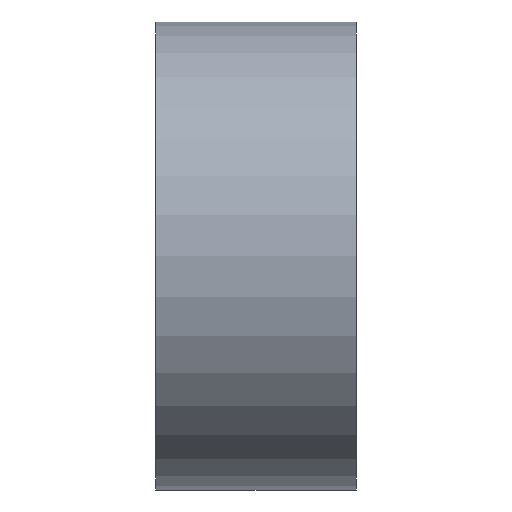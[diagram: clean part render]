
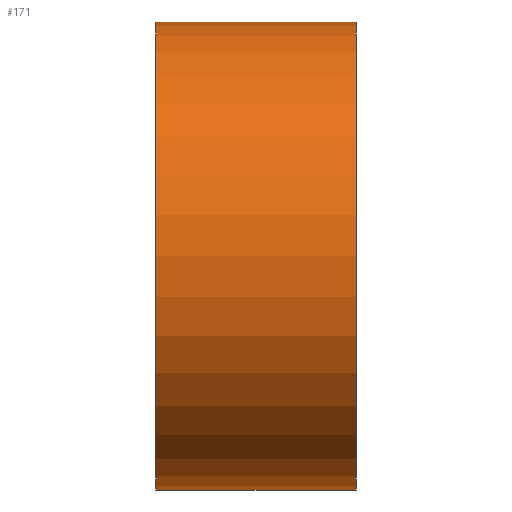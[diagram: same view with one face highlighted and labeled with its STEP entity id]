
A CAD part, left-side view. The second image highlights one B-rep face of the part: STEP entity #171.
In plain terms, the highlighted cylindrical face has radius 17.5 mm (diameter 35 mm), a partial arc.
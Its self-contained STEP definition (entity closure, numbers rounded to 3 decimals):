
#37 = CARTESIAN_POINT ( 'NONE',  ( 0., 0., 0. ) ) ;
#107 = DIRECTION ( 'NONE',  ( 0., 1., 0. ) ) ;
#112 = ORIENTED_EDGE ( 'NONE', *, *, #526, .F. ) ;
#118 = CARTESIAN_POINT ( 'NONE',  ( 0., 0., -17.5 ) ) ;
#153 = VECTOR ( 'NONE', #824, 1000. ) ;
#154 = CIRCLE ( 'NONE', #860, 17.5 ) ;
#171 = ADVANCED_FACE ( 'NONE', ( #703 ), #245, .T. ) ;
#190 = ORIENTED_EDGE ( 'NONE', *, *, #400, .F. ) ;
#207 = LINE ( 'NONE', #650, #417 ) ;
#233 = ORIENTED_EDGE ( 'NONE', *, *, #271, .T. ) ;
#245 = CYLINDRICAL_SURFACE ( 'NONE', #784, 17.5 ) ;
#262 = VERTEX_POINT ( 'NONE', #803 ) ;
#271 = EDGE_CURVE ( 'NONE', #359, #759, #207, .T. ) ;
#339 = DIRECTION ( 'NONE',  ( 0., 0., 1. ) ) ;
#352 = DIRECTION ( 'NONE',  ( 0., 1., 0. ) ) ;
#359 = VERTEX_POINT ( 'NONE', #621 ) ;
#374 = CARTESIAN_POINT ( 'NONE',  ( 0., -7.5, 0. ) ) ;
#400 = EDGE_CURVE ( 'NONE', #779, #262, #432, .T. ) ;
#415 = CIRCLE ( 'NONE', #528, 17.5 ) ;
#417 = VECTOR ( 'NONE', #945, 1000. ) ;
#425 = ORIENTED_EDGE ( 'NONE', *, *, #854, .T. ) ;
#427 = CARTESIAN_POINT ( 'NONE',  ( 0., 7.5, 0. ) ) ;
#432 = LINE ( 'NONE', #118, #153 ) ;
#526 = EDGE_CURVE ( 'NONE', #262, #759, #154, .T. ) ;
#528 = AXIS2_PLACEMENT_3D ( 'NONE', #374, #352, #732 ) ;
#569 = CARTESIAN_POINT ( 'NONE',  ( 0., 7.5, 17.5 ) ) ;
#621 = CARTESIAN_POINT ( 'NONE',  ( 0., -7.5, 17.5 ) ) ;
#626 = CARTESIAN_POINT ( 'NONE',  ( 0., -7.5, -17.5 ) ) ;
#650 = CARTESIAN_POINT ( 'NONE',  ( 0., 0., 17.5 ) ) ;
#673 = EDGE_LOOP ( 'NONE', ( #190, #425, #233, #112 ) ) ;
#703 = FACE_OUTER_BOUND ( 'NONE', #673, .T. ) ;
#732 = DIRECTION ( 'NONE',  ( 0., 0., 1. ) ) ;
#759 = VERTEX_POINT ( 'NONE', #569 ) ;
#763 = DIRECTION ( 'NONE',  ( 0., 0., 1. ) ) ;
#779 = VERTEX_POINT ( 'NONE', #626 ) ;
#784 = AXIS2_PLACEMENT_3D ( 'NONE', #37, #107, #763 ) ;
#803 = CARTESIAN_POINT ( 'NONE',  ( 0., 7.5, -17.5 ) ) ;
#824 = DIRECTION ( 'NONE',  ( 0., 1., 0. ) ) ;
#854 = EDGE_CURVE ( 'NONE', #779, #359, #415, .T. ) ;
#860 = AXIS2_PLACEMENT_3D ( 'NONE', #427, #928, #339 ) ;
#928 = DIRECTION ( 'NONE',  ( 0., 1., 0. ) ) ;
#945 = DIRECTION ( 'NONE',  ( 0., 1., 0. ) ) ;
